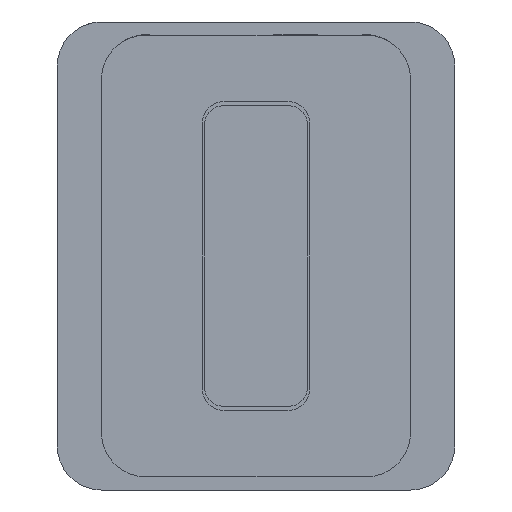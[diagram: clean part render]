
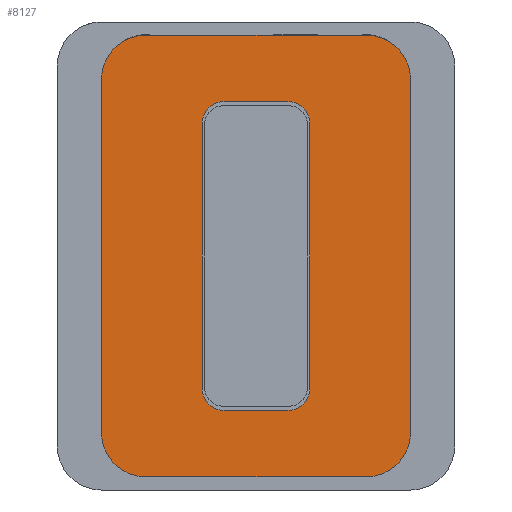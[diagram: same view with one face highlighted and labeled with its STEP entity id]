
A CAD part, front view. The second image highlights one B-rep face of the part: STEP entity #8127.
In plain terms, the highlighted planar face has unit normal (0, -1, 0).
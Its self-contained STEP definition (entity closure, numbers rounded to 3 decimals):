
#494 = DIRECTION ( 'NONE',  ( 0., 0., 1. ) ) ;
#669 = FACE_OUTER_BOUND ( 'NONE', #10772, .T. ) ;
#846 = EDGE_LOOP ( 'NONE', ( #12940, #19867, #20974, #5210, #4071, #8319, #4119, #17939 ) ) ;
#850 = VERTEX_POINT ( 'NONE', #12987 ) ;
#897 = EDGE_CURVE ( 'NONE', #5872, #20215, #13877, .T. ) ;
#1083 = EDGE_CURVE ( 'NONE', #14062, #850, #13503, .T. ) ;
#1231 = EDGE_CURVE ( 'NONE', #7247, #5872, #22503, .T. ) ;
#1424 = DIRECTION ( 'NONE',  ( -1., 0., 0. ) ) ;
#1500 = LINE ( 'NONE', #21660, #18411 ) ;
#1516 = EDGE_CURVE ( 'NONE', #20215, #14062, #17763, .T. ) ;
#1530 = CARTESIAN_POINT ( 'NONE',  ( -12.5, 0., -25. ) ) ;
#1726 = VECTOR ( 'NONE', #1424, 1000. ) ;
#1734 = DIRECTION ( 'NONE',  ( 1., 0., 0. ) ) ;
#1744 = CARTESIAN_POINT ( 'NONE',  ( 3.6, 0., 15. ) ) ;
#1767 = CARTESIAN_POINT ( 'NONE',  ( 3.6, 0., -15. ) ) ;
#1927 = VERTEX_POINT ( 'NONE', #2612 ) ;
#2291 = EDGE_CURVE ( 'NONE', #13619, #2607, #22703, .T. ) ;
#2463 = DIRECTION ( 'NONE',  ( 0., -1., 0. ) ) ;
#2466 = ORIENTED_EDGE ( 'NONE', *, *, #1083, .F. ) ;
#2572 = FACE_BOUND ( 'NONE', #846, .T. ) ;
#2607 = VERTEX_POINT ( 'NONE', #12899 ) ;
#2612 = CARTESIAN_POINT ( 'NONE',  ( -17.5, 0., 20. ) ) ;
#3021 = CIRCLE ( 'NONE', #12150, 2.5 ) ;
#3215 = AXIS2_PLACEMENT_3D ( 'NONE', #14152, #4992, #19281 ) ;
#3520 = ORIENTED_EDGE ( 'NONE', *, *, #7174, .F. ) ;
#3530 = LINE ( 'NONE', #18425, #3828 ) ;
#3701 = VERTEX_POINT ( 'NONE', #18251 ) ;
#3718 = ORIENTED_EDGE ( 'NONE', *, *, #1231, .F. ) ;
#3828 = VECTOR ( 'NONE', #10784, 1000. ) ;
#3849 = AXIS2_PLACEMENT_3D ( 'NONE', #13472, #9435, #494 ) ;
#3931 = CIRCLE ( 'NONE', #10762, 5. ) ;
#4071 = ORIENTED_EDGE ( 'NONE', *, *, #9692, .T. ) ;
#4119 = ORIENTED_EDGE ( 'NONE', *, *, #14359, .T. ) ;
#4764 = CARTESIAN_POINT ( 'NONE',  ( -3.6, 0., -15. ) ) ;
#4768 = CARTESIAN_POINT ( 'NONE',  ( -6.1, 0., -15. ) ) ;
#4992 = DIRECTION ( 'NONE',  ( 0., 1., 0. ) ) ;
#5031 = ORIENTED_EDGE ( 'NONE', *, *, #897, .F. ) ;
#5199 = DIRECTION ( 'NONE',  ( 0., 1., 0. ) ) ;
#5210 = ORIENTED_EDGE ( 'NONE', *, *, #2291, .T. ) ;
#5448 = DIRECTION ( 'NONE',  ( 0., 1., 0. ) ) ;
#5475 = CARTESIAN_POINT ( 'NONE',  ( -3.6, 0., -17.5 ) ) ;
#5550 = LINE ( 'NONE', #7458, #19896 ) ;
#5753 = VECTOR ( 'NONE', #9777, 1000. ) ;
#5872 = VERTEX_POINT ( 'NONE', #18387 ) ;
#5934 = PLANE ( 'NONE',  #18448 ) ;
#6179 = CARTESIAN_POINT ( 'NONE',  ( 17.5, 0., 20. ) ) ;
#6515 = CARTESIAN_POINT ( 'NONE',  ( -12.5, 0., 25. ) ) ;
#6668 = AXIS2_PLACEMENT_3D ( 'NONE', #21939, #7396, #14651 ) ;
#7117 = CARTESIAN_POINT ( 'NONE',  ( -12.5, 0., 20. ) ) ;
#7164 = CARTESIAN_POINT ( 'NONE',  ( -12.5, 0., -25. ) ) ;
#7174 = EDGE_CURVE ( 'NONE', #850, #1927, #1500, .T. ) ;
#7247 = VERTEX_POINT ( 'NONE', #22800 ) ;
#7381 = DIRECTION ( 'NONE',  ( 0., 0., -1. ) ) ;
#7396 = DIRECTION ( 'NONE',  ( 0., 1., 0. ) ) ;
#7458 = CARTESIAN_POINT ( 'NONE',  ( 3.6, 0., 17.5 ) ) ;
#7541 = VERTEX_POINT ( 'NONE', #16947 ) ;
#8127 = ADVANCED_FACE ( 'NONE', ( #669, #2572 ), #5934, .T. ) ;
#8168 = DIRECTION ( 'NONE',  ( 0., 0., -1. ) ) ;
#8235 = EDGE_CURVE ( 'NONE', #13088, #7541, #19246, .T. ) ;
#8319 = ORIENTED_EDGE ( 'NONE', *, *, #21299, .T. ) ;
#8791 = DIRECTION ( 'NONE',  ( 0., 0., 1. ) ) ;
#8889 = CARTESIAN_POINT ( 'NONE',  ( 3.6, 0., -17.5 ) ) ;
#9435 = DIRECTION ( 'NONE',  ( 0., 1., 0. ) ) ;
#9692 = EDGE_CURVE ( 'NONE', #2607, #3701, #5550, .T. ) ;
#9777 = DIRECTION ( 'NONE',  ( 0., 0., 1. ) ) ;
#9853 = DIRECTION ( 'NONE',  ( 0., 0., -1. ) ) ;
#10396 = CARTESIAN_POINT ( 'NONE',  ( -6.1, 0., 15. ) ) ;
#10661 = DIRECTION ( 'NONE',  ( 0., 0., -1. ) ) ;
#10762 = AXIS2_PLACEMENT_3D ( 'NONE', #7117, #19010, #8168 ) ;
#10772 = EDGE_LOOP ( 'NONE', ( #5031, #3718, #12162, #14538, #20212, #3520, #2466, #13747 ) ) ;
#10784 = DIRECTION ( 'NONE',  ( 0., 0., -1. ) ) ;
#10828 = EDGE_CURVE ( 'NONE', #1927, #13088, #3931, .T. ) ;
#11074 = CARTESIAN_POINT ( 'NONE',  ( 3.6, 0., -17.5 ) ) ;
#11348 = VECTOR ( 'NONE', #20138, 1000. ) ;
#11635 = CARTESIAN_POINT ( 'NONE',  ( 12.5, 0., -20. ) ) ;
#12015 = DIRECTION ( 'NONE',  ( 0., 0., 1. ) ) ;
#12150 = AXIS2_PLACEMENT_3D ( 'NONE', #4764, #17504, #12015 ) ;
#12162 = ORIENTED_EDGE ( 'NONE', *, *, #15239, .F. ) ;
#12398 = AXIS2_PLACEMENT_3D ( 'NONE', #17470, #5199, #10661 ) ;
#12550 = AXIS2_PLACEMENT_3D ( 'NONE', #1767, #18342, #7381 ) ;
#12554 = CARTESIAN_POINT ( 'NONE',  ( 6.1, 0., -15. ) ) ;
#12705 = DIRECTION ( 'NONE',  ( 0., 0., -1. ) ) ;
#12844 = EDGE_CURVE ( 'NONE', #15758, #16554, #3021, .T. ) ;
#12899 = CARTESIAN_POINT ( 'NONE',  ( -3.6, 0., 17.5 ) ) ;
#12940 = ORIENTED_EDGE ( 'NONE', *, *, #18873, .T. ) ;
#12987 = CARTESIAN_POINT ( 'NONE',  ( -17.5, 0., -20. ) ) ;
#13088 = VERTEX_POINT ( 'NONE', #13660 ) ;
#13472 = CARTESIAN_POINT ( 'NONE',  ( 12.5, 0., 20. ) ) ;
#13503 = CIRCLE ( 'NONE', #3215, 5. ) ;
#13619 = VERTEX_POINT ( 'NONE', #10396 ) ;
#13660 = CARTESIAN_POINT ( 'NONE',  ( -12.5, 0., 25. ) ) ;
#13746 = VERTEX_POINT ( 'NONE', #12554 ) ;
#13747 = ORIENTED_EDGE ( 'NONE', *, *, #1516, .F. ) ;
#13877 = CIRCLE ( 'NONE', #6668, 5. ) ;
#13893 = VECTOR ( 'NONE', #9853, 1000. ) ;
#14062 = VERTEX_POINT ( 'NONE', #1530 ) ;
#14152 = CARTESIAN_POINT ( 'NONE',  ( -12.5, 0., -20. ) ) ;
#14359 = EDGE_CURVE ( 'NONE', #15152, #13746, #3530, .T. ) ;
#14538 = ORIENTED_EDGE ( 'NONE', *, *, #8235, .F. ) ;
#14651 = DIRECTION ( 'NONE',  ( 0., 0., -1. ) ) ;
#15152 = VERTEX_POINT ( 'NONE', #15274 ) ;
#15239 = EDGE_CURVE ( 'NONE', #7541, #7247, #20210, .T. ) ;
#15274 = CARTESIAN_POINT ( 'NONE',  ( 6.1, 0., 15. ) ) ;
#15512 = EDGE_CURVE ( 'NONE', #16554, #13619, #21096, .T. ) ;
#15758 = VERTEX_POINT ( 'NONE', #5475 ) ;
#15778 = VECTOR ( 'NONE', #21048, 1000. ) ;
#16320 = CARTESIAN_POINT ( 'NONE',  ( -6.1, 0., -15. ) ) ;
#16554 = VERTEX_POINT ( 'NONE', #16320 ) ;
#16751 = CIRCLE ( 'NONE', #12550, 2.5 ) ;
#16947 = CARTESIAN_POINT ( 'NONE',  ( 12.5, 0., 25. ) ) ;
#17105 = AXIS2_PLACEMENT_3D ( 'NONE', #1744, #5448, #12705 ) ;
#17470 = CARTESIAN_POINT ( 'NONE',  ( -3.6, 0., 15. ) ) ;
#17478 = CIRCLE ( 'NONE', #17105, 2.5 ) ;
#17504 = DIRECTION ( 'NONE',  ( 0., 1., 0. ) ) ;
#17763 = LINE ( 'NONE', #7164, #1726 ) ;
#17939 = ORIENTED_EDGE ( 'NONE', *, *, #21826, .T. ) ;
#18251 = CARTESIAN_POINT ( 'NONE',  ( 3.6, 0., 17.5 ) ) ;
#18342 = DIRECTION ( 'NONE',  ( 0., 1., 0. ) ) ;
#18387 = CARTESIAN_POINT ( 'NONE',  ( 17.5, 0., -20. ) ) ;
#18411 = VECTOR ( 'NONE', #8791, 1000. ) ;
#18425 = CARTESIAN_POINT ( 'NONE',  ( 6.1, 0., -15. ) ) ;
#18448 = AXIS2_PLACEMENT_3D ( 'NONE', #11635, #2463, #22375 ) ;
#18873 = EDGE_CURVE ( 'NONE', #19452, #15758, #23250, .T. ) ;
#19010 = DIRECTION ( 'NONE',  ( 0., 1., 0. ) ) ;
#19246 = LINE ( 'NONE', #6515, #15778 ) ;
#19281 = DIRECTION ( 'NONE',  ( 0., 0., -1. ) ) ;
#19452 = VERTEX_POINT ( 'NONE', #8889 ) ;
#19867 = ORIENTED_EDGE ( 'NONE', *, *, #12844, .T. ) ;
#19896 = VECTOR ( 'NONE', #1734, 1000. ) ;
#20138 = DIRECTION ( 'NONE',  ( -1., 0., 0. ) ) ;
#20210 = CIRCLE ( 'NONE', #3849, 5. ) ;
#20212 = ORIENTED_EDGE ( 'NONE', *, *, #10828, .F. ) ;
#20215 = VERTEX_POINT ( 'NONE', #21281 ) ;
#20974 = ORIENTED_EDGE ( 'NONE', *, *, #15512, .T. ) ;
#21048 = DIRECTION ( 'NONE',  ( 1., 0., 0. ) ) ;
#21096 = LINE ( 'NONE', #4768, #5753 ) ;
#21281 = CARTESIAN_POINT ( 'NONE',  ( 12.5, 0., -25. ) ) ;
#21299 = EDGE_CURVE ( 'NONE', #3701, #15152, #17478, .T. ) ;
#21660 = CARTESIAN_POINT ( 'NONE',  ( -17.5, 0., 20. ) ) ;
#21826 = EDGE_CURVE ( 'NONE', #13746, #19452, #16751, .T. ) ;
#21939 = CARTESIAN_POINT ( 'NONE',  ( 12.5, 0., -20. ) ) ;
#22375 = DIRECTION ( 'NONE',  ( 0., 0., -1. ) ) ;
#22503 = LINE ( 'NONE', #6179, #13893 ) ;
#22703 = CIRCLE ( 'NONE', #12398, 2.5 ) ;
#22800 = CARTESIAN_POINT ( 'NONE',  ( 17.5, 0., 20. ) ) ;
#23250 = LINE ( 'NONE', #11074, #11348 ) ;
